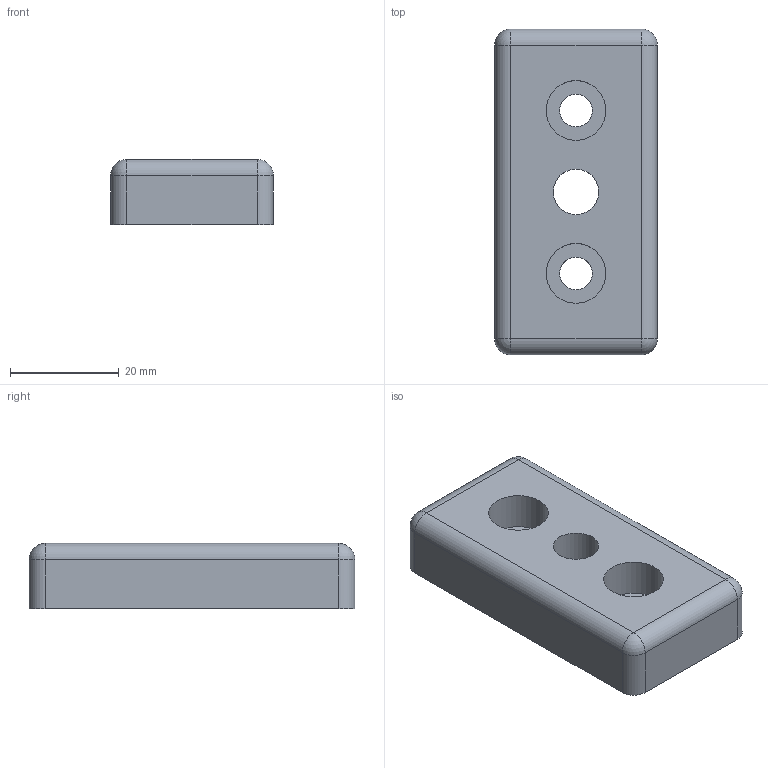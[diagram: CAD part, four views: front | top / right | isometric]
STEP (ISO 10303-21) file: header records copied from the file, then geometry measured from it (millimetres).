
FILE_DESCRIPTION(/* description */ ('STEP AP214'),/* implementation_level */ '2;1');
FILE_NAME(/* name */ 'Transport and Base Plate GN 80i-30606M10-A-ZS',/* time_stamp */ '2024-08-28T12:25:37+02:00',/* author */ ('License CC BY-ND 4.0'),/* organization */ ('CADENAS'),/* preprocessor_version */ 'ST-DEVELOPER v19.3',/* originating_system */ 'PARTsolutions',/* authorisation */ ' ');
FILE_SCHEMA (('AUTOMOTIVE_DESIGN {1 0 10303 214 3 1 1}'));
Length unit declared in the file: millimetre
Products named in the file (1): Transport and Base Plate GN 80i-30606M10-A-ZS
Bounding box: 30 x 60 x 12 mm (x, y, z)
Volume: 18903.3 mm3; surface area: 6218.4 mm2
Topology: 1 solids, 1 shells, 25 faces, 55 edges, 30 vertices
Faces by surface type: cylinder 13, plane 8, sphere 4
Full cylindrical faces by diameter (mm): 6 x2, 8.376 x1, 11 x2
Entity records: 672 total; most frequent: DIRECTION 124, CARTESIAN_POINT 102, ORIENTED_EDGE 92, AXIS2_PLACEMENT_3D 52, EDGE_CURVE 46, EDGE_LOOP 38, FACE_BOUND 38, VERTEX_POINT 30
